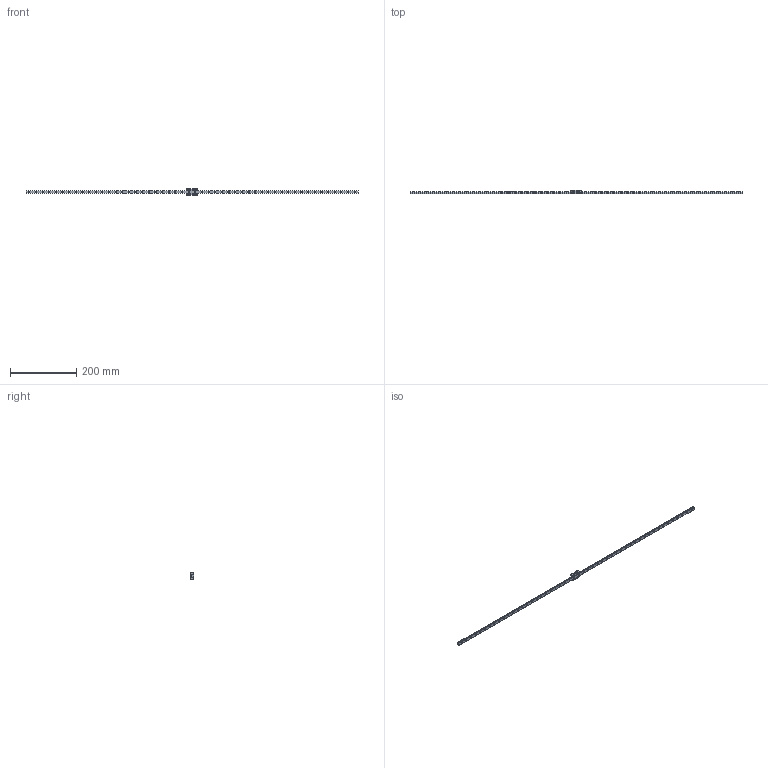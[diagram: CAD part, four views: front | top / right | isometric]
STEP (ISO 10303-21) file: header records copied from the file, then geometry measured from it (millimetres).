
FILE_DESCRIPTION( ( '' ), '1' );
FILE_NAME( 'C:/Users/v3-771-32344/Documents/Website 2016/STEP/SRS9XM1UU1000100484.6000.stp', '2016-11-10T13:08:52', ( '' ), ( '' ), ' ', ' ', ' ' );
FILE_SCHEMA( ( 'CONFIG_CONTROL_DESIGN' ) );
Length unit declared in the file: millimetre
Products named in the file (2): 1; 2
Bounding box: 1000 x 10 x 20 mm (x, y, z)
Volume: 44067.1 mm3; surface area: 34025.3 mm2
Topology: 2 solids, 2 shells, 386 faces, 958 edges, 624 vertices
Faces by surface type: cylinder 239, plane 131, cone 16
Entity records: 11888 total; most frequent: DIRECTION 2216, CARTESIAN_POINT 1962, ORIENTED_EDGE 1900, EDGE_CURVE 950, AXIS2_PLACEMENT_3D 878, VERTEX_POINT 624, EDGE_LOOP 542, CIRCLE 486
